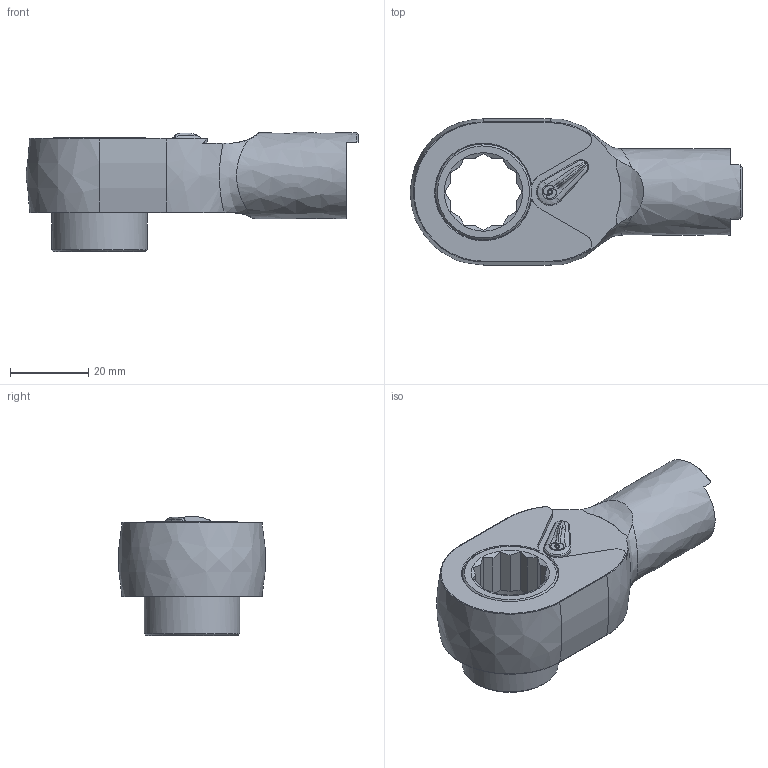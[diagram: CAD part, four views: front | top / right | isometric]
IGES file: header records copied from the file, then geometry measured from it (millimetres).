
Global section: file name: RQH15DX17; native system: Autodesk Inventor 2017; preprocessor: unknown; author: q603; date: 20170209.104129; units: millimetre
Bounding box: 84.75 x 37.3 x 30.4 mm (x, y, z)
Volume: 36064 mm3; surface area: 11175.3 mm2
Topology: 1 solids, 1 shells, 130 faces, 360 edges, 227 vertices
Faces by surface type: bspline 130
